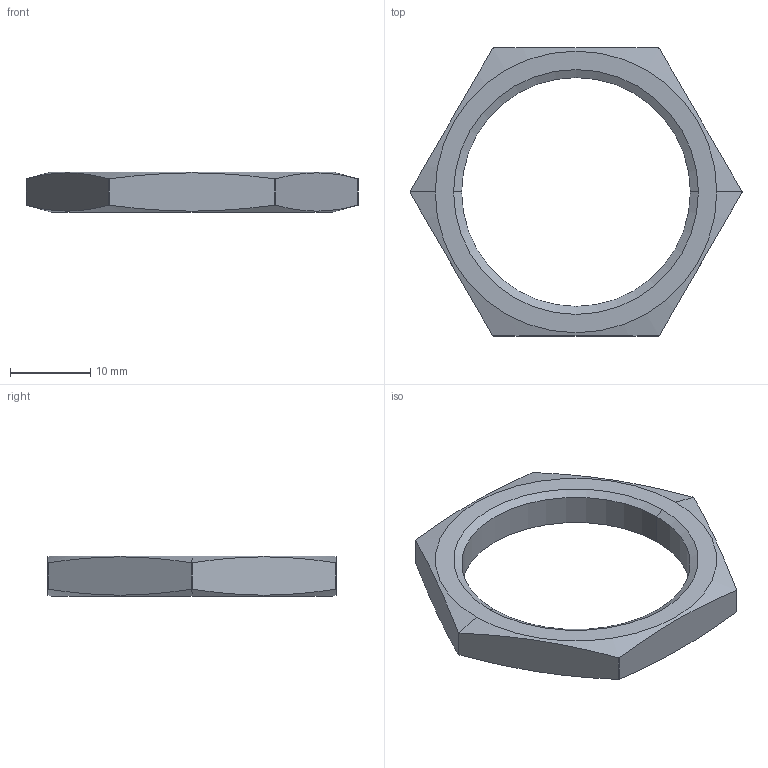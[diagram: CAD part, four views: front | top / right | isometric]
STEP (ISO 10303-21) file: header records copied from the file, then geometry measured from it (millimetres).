
FILE_DESCRIPTION((''),'2;1');
FILE_NAME('C:\Dokumente und Einstellungen\li\Desktop\PDF fuer IT\M30x1,5 Mutter.stp','2006-08-21T14:32:34',('li'),(''),'Autodesk Inventor 9','Autodesk Inventor 9','');
FILE_SCHEMA(('AUTOMOTIVE_DESIGN { 1 0 10303 214 1 1 1 1 }'));
Length unit declared in the file: millimetre
Products named in the file (1): M30x1,5 Mutter
Bounding box: 41.5 x 36 x 5 mm (x, y, z)
Volume: 2272.4 mm3; surface area: 1877.3 mm2
Topology: 1 solids, 1 shells, 26 faces, 64 edges, 40 vertices
Faces by surface type: cylinder 10, cone 8, plane 8
Entity records: 787 total; most frequent: CARTESIAN_POINT 155, DIRECTION 134, ORIENTED_EDGE 128, EDGE_CURVE 64, AXIS2_PLACEMENT_3D 55, VERTEX_POINT 40, CIRCLE 28, EDGE_LOOP 28
